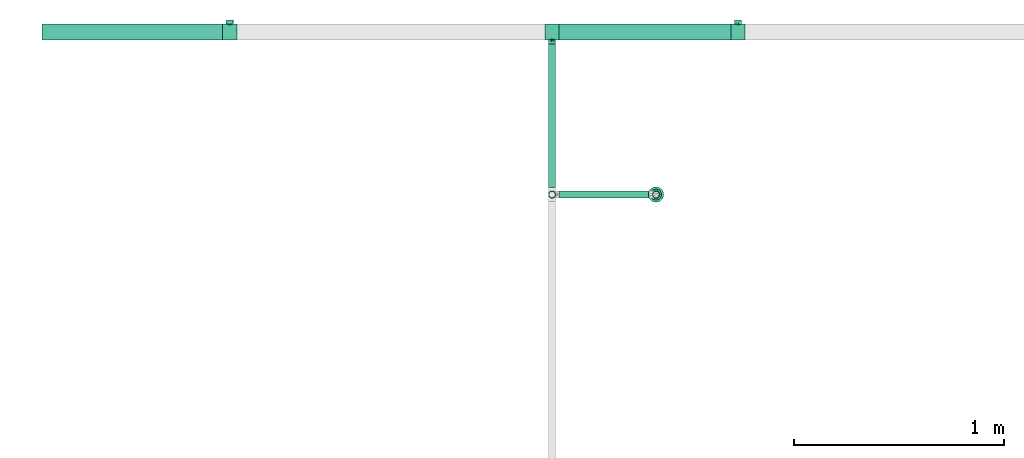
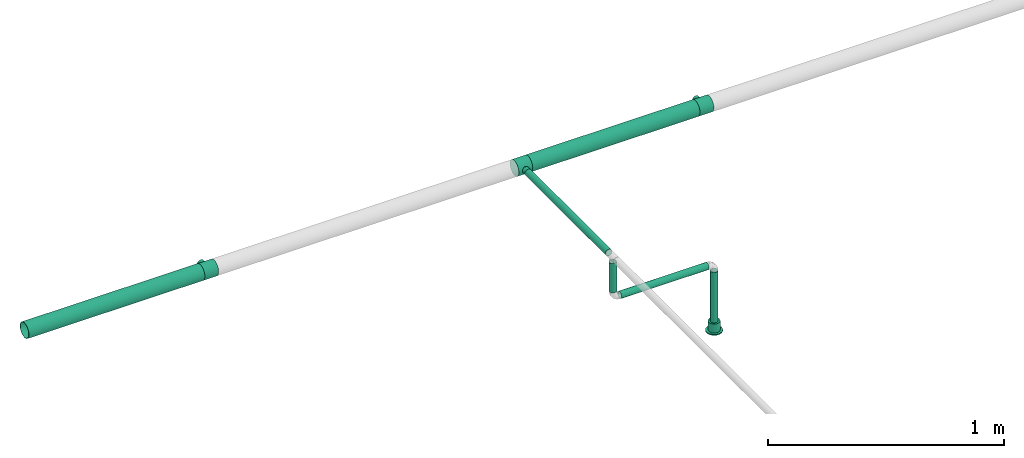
# One storey, part 31 of 95: 6 flow segments, 3 flow fittings, 1 flow terminal.
"""IFC2X3 building model written with IfcOpenShell, lengths in millimetres."""

import ifcopenshell
import ifcopenshell.guid

model = None  # the IFC model being written
_history = None  # IfcOwnerHistory: only IFC2X3 demands one
_inside = {}  # id of a spatial element -> (the spatial element, [elements in it])
_under = {}  # id of a project, library or spatial element -> (it, [spatial elements below it])
_declared = {}  # id of a project -> (the project, [libraries it declares])
_typed = {}  # id of a type object -> (the type object, [elements of that type])
_made_of = {}  # id of a material, layer set ... -> (it, [elements and type objects made of it])


def new_model(schema):
    """Start an empty IFC model of exactly this schema.

    Asked for "IFC4X3", IfcOpenShell would pick the latest addendum, in which some entities
    have other attributes; the version numbers below select the first issue.
    IFC2X3 requires an IfcOwnerHistory on every rooted entity: one is made here for all.
    """
    global model, _history
    if schema == "IFC4X3":
        model = ifcopenshell.file(schema_version=(4, 3, 0, 0))
    else:
        model = ifcopenshell.file(schema=schema)
    _inside.clear()
    _under.clear()
    _declared.clear()
    _typed.clear()
    _made_of.clear()
    _history = None
    if model.schema == "IFC2X3":
        org = make("IfcOrganization", Name="unknown")
        user = make(
            "IfcPersonAndOrganization",
            ThePerson=make("IfcPerson", FamilyName="unknown"),
            TheOrganization=org,
        )
        app = make(
            "IfcApplication",
            ApplicationDeveloper=org,
            Version="unknown",
            ApplicationFullName="unknown",
            ApplicationIdentifier="unknown",
        )
        _history = make(
            "IfcOwnerHistory",
            OwningUser=user,
            OwningApplication=app,
            ChangeAction="ADDED",
            CreationDate=0,
        )
    return model


def make(cls, **values):
    """One entity of the class cls with the attributes given. An attribute that is None is left unset."""
    return model.create_entity(
        cls, **{name: value for name, value in values.items() if value is not None}
    )


def entity(cls, *values):
    """Any entity or typed value of the class cls, its attributes in the order of the schema. None: left unset."""
    e = model.create_entity(cls)
    for i, value in enumerate(values):
        if value is not None:
            e[i] = value
    return e


def rooted(cls, **values):
    """An entity with a GlobalId (a new one), such as an element, a storey or a relation."""
    return make(cls, GlobalId=ifcopenshell.guid.new(), OwnerHistory=_history, **values)


def si_unit(unit_type, name, prefix=None):
    """IfcSIUnit, for example si_unit("LENGTHUNIT", "METRE", prefix="MILLI")."""
    return make("IfcSIUnit", UnitType=unit_type, Prefix=prefix, Name=name)


def converted_unit(unit_type, name, factor, base, dimensions=None, offset=None):
    """IfcConversionBasedUnit, such as the inch: factor (a typed value) times the base unit."""
    return make(
        "IfcConversionBasedUnit"
        if offset is None
        else "IfcConversionBasedUnitWithOffset",
        ConversionOffset=offset,
        Dimensions=None
        if dimensions is None
        else entity("IfcDimensionalExponents", *dimensions),
        UnitType=unit_type,
        Name=name,
        ConversionFactor=make(
            "IfcMeasureWithUnit", ValueComponent=factor, UnitComponent=base
        ),
    )


def derived_unit(unit_type, elements):
    """IfcDerivedUnit: a product of units, each with its exponent."""
    return make(
        "IfcDerivedUnit",
        Elements=[
            make("IfcDerivedUnitElement", Unit=unit, Exponent=power)
            for unit, power in elements
        ],
        UnitType=unit_type,
    )


def assignment(units):
    """IfcUnitAssignment: the units of a project."""
    return None if units is None else make("IfcUnitAssignment", Units=units)


def point(xyz):
    """IfcCartesianPoint."""
    return None if xyz is None else make("IfcCartesianPoint", Coordinates=xyz)


def direction(xyz):
    """IfcDirection."""
    return None if xyz is None else make("IfcDirection", DirectionRatios=xyz)


def frame(location, z_axis=None, x_axis=None):
    """IfcAxis2Placement3D, a coordinate frame: its origin and axes. An axis left out is left unset."""
    return make(
        "IfcAxis2Placement3D",
        Location=point(location),
        Axis=direction(z_axis),
        RefDirection=direction(x_axis),
    )


def frame_2d(location, x_axis=None):
    """IfcAxis2Placement2D, a coordinate frame in the plane: its origin and x axis."""
    return make(
        "IfcAxis2Placement2D", Location=point(location), RefDirection=direction(x_axis)
    )


def origin_with_axes():
    """The frame at (0, 0, 0) with the z axis (0, 0, 1) and the x axis (1, 0, 0) written out."""
    return frame((0.0, 0.0, 0.0), z_axis=(0.0, 0.0, 1.0), x_axis=(1.0, 0.0, 0.0))


def origin_2d_with_axis():
    """The frame at (0, 0) in the plane with the x axis (1, 0) written out."""
    return frame_2d((0.0, 0.0), x_axis=(1.0, 0.0))


def place(relative_to, where):
    """IfcLocalPlacement: puts the frame where relative to a parent placement (None: the world)."""
    return make(
        "IfcLocalPlacement", PlacementRelTo=relative_to, RelativePlacement=where
    )


def context(
    kind, dimensions, precision=None, world=None, true_north=None, identifier=None
):
    """IfcGeometricRepresentationContext, for example the 3D "Model" context."""
    return make(
        "IfcGeometricRepresentationContext",
        ContextIdentifier=identifier,
        ContextType=kind,
        CoordinateSpaceDimension=dimensions,
        Precision=precision,
        WorldCoordinateSystem=world,
        TrueNorth=true_north,
    )


def subcontext(parent, identifier, kind, view, scale=None):
    """IfcGeometricRepresentationSubContext, for example "Body" below "Model"."""
    return make(
        "IfcGeometricRepresentationSubContext",
        ContextIdentifier=identifier,
        ContextType=kind,
        ParentContext=parent,
        TargetScale=scale,
        TargetView=view,
    )


def project(units=None, contexts=None):
    """IfcProject with its units and contexts."""
    return rooted(
        "IfcProject",
        Name="project",
        RepresentationContexts=contexts,
        UnitsInContext=assignment(units),
    )


def spatial(cls, under=None, at=None, **own):
    """A site, building, storey or space (cls), placed at a placement, below another one or the project."""
    s = rooted(cls, ObjectPlacement=at, **own)
    if under is not None:
        _under.setdefault(under.id(), (under, []))[1].append(s)
    return s


def profile(cls, at=None, kind="AREA", **sizes):
    """A parametric profile (cls). Its sizes go by their IFC names, for example OverallWidth=200.0."""
    return make(cls, ProfileType=kind, Position=at, **sizes)


def hollow_circle(**sizes):
    """IfcCircleHollowProfileDef."""
    return profile("IfcCircleHollowProfileDef", **sizes)


def extrude(swept, where, along, depth):
    """IfcExtrudedAreaSolid: the profile swept, set in the frame where, extruded along a direction by depth."""
    return make(
        "IfcExtrudedAreaSolid",
        SweptArea=swept,
        Position=where,
        ExtrudedDirection=direction(along),
        Depth=depth,
    )


def faces_of(points, faces, orient=None, outer=None):
    """IfcFace entities. A face is a list of loops; a loop is a list of indices into points, from 0.

    orient and outer hold one flag for each loop. By default every Orientation is true, the
    first loop of a face is its IfcFaceOuterBound and the others are IfcFaceBound.
    """
    made = []
    for i, loops in enumerate(faces):
        bounds = []
        for j, loop in enumerate(loops):
            is_outer = j == 0 if outer is None else outer[i][j]
            bounds.append(
                make(
                    "IfcFaceOuterBound" if is_outer else "IfcFaceBound",
                    Bound=make("IfcPolyLoop", Polygon=[points[k] for k in loop]),
                    Orientation=True if orient is None else orient[i][j],
                )
            )
        made.append(make("IfcFace", Bounds=bounds))
    return made


def open_shell(faces, orient=None, outer=None):
    """The faces of one IfcOpenShell. surface_model builds it on its shared points."""
    return ("IfcOpenShell", faces, orient, outer)


def surface_model(cls, points, shells):
    """IfcFaceBasedSurfaceModel or IfcShellBasedSurfaceModel (cls): surfaces that need not close."""
    shared = [point(p) for p in points]
    made = [make(c, CfsFaces=faces_of(shared, fs, o, b)) for c, fs, o, b in shells]
    if cls == "IfcFaceBasedSurfaceModel":
        return make(cls, FbsmFaces=made)
    return make(cls, SbsmBoundary=made)


def shape(context_of_items, identifier, shape_type, items):
    """IfcShapeRepresentation: the items that make up one representation, for example the "Body"."""
    return make(
        "IfcShapeRepresentation",
        ContextOfItems=context_of_items,
        RepresentationIdentifier=identifier,
        RepresentationType=shape_type,
        Items=items,
    )


def source(mapping_origin, context_of_items, identifier, shape_type, items):
    """IfcRepresentationMap: a shape defined once, which mapped items show again and again."""
    return make(
        "IfcRepresentationMap",
        MappingOrigin=mapping_origin,
        MappedRepresentation=shape(context_of_items, identifier, shape_type, items),
    )


def transform(
    local_origin,
    x_axis=None,
    y_axis=None,
    z_axis=None,
    scale=None,
    scale2=None,
    scale3=None,
    uniform=True,
):
    """IfcCartesianTransformationOperator3D, or its non-uniform kind. x_axis, y_axis, z_axis: its Axis1, 2, 3."""
    if uniform:
        return make(
            "IfcCartesianTransformationOperator3D",
            Axis1=direction(x_axis),
            Axis2=direction(y_axis),
            LocalOrigin=point(local_origin),
            Scale=scale,
            Axis3=direction(z_axis),
        )
    return make(
        "IfcCartesianTransformationOperator3DnonUniform",
        Axis1=direction(x_axis),
        Axis2=direction(y_axis),
        LocalOrigin=point(local_origin),
        Scale=scale,
        Axis3=direction(z_axis),
        Scale2=scale2,
        Scale3=scale3,
    )


def mapped(mapping_source, mapping_target):
    """IfcMappedItem: shows the shape of a source again, moved by a transform."""
    return make(
        "IfcMappedItem", MappingSource=mapping_source, MappingTarget=mapping_target
    )


def made_of(thing, what):
    """Note that an element or type object is made of a material, layer set ...; save() writes the relation."""
    if what is not None:
        _made_of.setdefault(what.id(), (what, []))[1].append(thing)
    return thing


def type_object(cls, material=None, **own):
    """A type object (cls), such as IfcWallType, which elements share."""
    return made_of(rooted(cls, **own), material)


def element(
    cls,
    number,
    at=None,
    inside=None,
    cuts=None,
    type_object=None,
    material=None,
    context=None,
    identifier="Body",
    shape_type=None,
    held_by="IfcProductDefinitionShape",
    body=None,
    shapes=None,
    **own,
):
    """One element of the class cls, such as IfcWall. Its Tag is "e" and its number.

    at: its placement. inside: the storey or other place that contains it. cuts: it is an
    opening in that element (IfcRelVoidsElement). A single representation is given by context,
    identifier, shape_type and body (its items); several are given by shapes. held_by: the class
    of the entity that holds the representations. save() writes the other relations.
    """
    e = rooted(cls, Tag="e%d" % number, ObjectPlacement=at, **own)
    if body is not None:
        shapes = [shape(context, identifier, shape_type, body)]
    if shapes is not None:
        e.Representation = make(held_by, Representations=shapes)
    if inside is not None:
        _inside.setdefault(inside.id(), (inside, []))[1].append(e)
    if cuts is not None:
        rooted(
            "IfcRelVoidsElement", RelatingBuildingElement=cuts, RelatedOpeningElement=e
        )
    if type_object is not None:
        _typed.setdefault(type_object.id(), (type_object, []))[1].append(e)
    return made_of(e, material)


def aggregate(whole, parts):
    """IfcRelAggregates: a whole, such as a stair, and the parts it consists of."""
    return rooted("IfcRelAggregates", RelatingObject=whole, RelatedObjects=parts)


def save(model, path):
    """Write the relations noted so far, then the file.

    IfcRelAggregates (storeys below a building ...), IfcRelContainedInSpatialStructure (elements
    in a storey), IfcRelDefinesByType, IfcRelAssociatesMaterial and IfcRelDeclares: one each for
    every whole, place, type object, material and project.
    """
    for whole, parts in _under.values():
        aggregate(whole, parts)
    for where, things in _inside.values():
        rooted(
            "IfcRelContainedInSpatialStructure",
            RelatedElements=things,
            RelatingStructure=where,
        )
    for kind, things in _typed.values():
        rooted("IfcRelDefinesByType", RelatedObjects=things, RelatingType=kind)
    for what, things in _made_of.values():
        rooted("IfcRelAssociatesMaterial", RelatedObjects=things, RelatingMaterial=what)
    for by, libraries in _declared.values():
        rooted("IfcRelDeclares", RelatingContext=by, RelatedDefinitions=libraries)
    model.write(path)


model = new_model("IFC2X3")

# Units and contexts
model_context = context("Model", 3, precision=0.01, world=frame((0.0, 4.29681676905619e-09, 0.0)), true_north=direction((4.01073788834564e-13, 1.0)))
plan_context = context("Plan", 3, precision=0.01, world=frame((0.0, 4.29681676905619e-09, 0.0)), true_north=direction((4.01073788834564e-13, 1.0)))
body_context = subcontext(model_context, "Body", "Model", "MODEL_VIEW")
ifc_project = project(units=[converted_unit("PLANEANGLEUNIT", "DEGREE", entity("IfcPositiveLengthMeasure", 0.0174532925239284), si_unit("PLANEANGLEUNIT", "RADIAN"), dimensions=[0, 0, 0, 0, 0, 0, 0]), si_unit("AREAUNIT", "SQUARE_METRE"), si_unit("LENGTHUNIT", "METRE", prefix="MILLI"), si_unit("MASSUNIT", "GRAM", prefix="KILO"), si_unit("POWERUNIT", "WATT"), si_unit("PRESSUREUNIT", "PASCAL"), si_unit("FORCEUNIT", "NEWTON", prefix="KILO"), si_unit("ELECTRICVOLTAGEUNIT", "VOLT"), si_unit("ELECTRICCURRENTUNIT", "AMPERE"), si_unit("THERMODYNAMICTEMPERATUREUNIT", "DEGREE_CELSIUS"), si_unit("TIMEUNIT", "SECOND"), si_unit("VOLUMEUNIT", "CUBIC_METRE"), derived_unit("LINEARVELOCITYUNIT", [(si_unit("LENGTHUNIT", "METRE"), 1), (si_unit("TIMEUNIT", "SECOND"), -1)]), derived_unit("VOLUMETRICFLOWRATEUNIT", [(si_unit("VOLUMEUNIT", "CUBIC_METRE"), 1), (si_unit("TIMEUNIT", "SECOND"), -1)]), derived_unit("THERMALTRANSMITTANCEUNIT", [(si_unit("POWERUNIT", "WATT"), 1), (si_unit("THERMODYNAMICTEMPERATUREUNIT", "KELVIN"), -1), (si_unit("AREAUNIT", "SQUARE_METRE"), -1)]), derived_unit("SOUNDPRESSUREUNIT", [(si_unit("PRESSUREUNIT", "PASCAL"), 1)])], contexts=[model_context, plan_context])

# Site, building, storey
site_placement = place(None, frame((0.0, -4.29681676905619e-09, 0.0), z_axis=(0.0, 0.0, 1.0), x_axis=(1.0, 0.0, 0.0)))
site = spatial("IfcSite", under=ifc_project, at=site_placement, CompositionType="ELEMENT")
building_placement = place(site_placement, frame((0.0, 4.29681676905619e-09, 0.0), z_axis=(0.0, 0.0, 1.0), x_axis=(1.0, 0.0, 0.0)))
building = spatial("IfcBuilding", under=site, at=building_placement, Name="mc-building", CompositionType="ELEMENT")
storey_placement = place(building_placement, frame((0.0, 0.0, 210900.0), z_axis=(0.0, 0.0, 1.0), x_axis=(1.0, 0.0, 0.0)))
storey = spatial("IfcBuildingStorey", under=building, at=storey_placement, Name="Nivå F", CompositionType="ELEMENT", Elevation=210900.0)

# Flow fittings
pipe_fitting_type = type_object("IfcPipeFittingType", Name="magi_pipe_fe_tee_centric_90_NOR", PredefinedType="JUNCTION")
shared_shape_1 = source(origin_with_axes(), body_context, "Body", "SurfaceModel", [
    surface_model("IfcShellBasedSurfaceModel", [(-33.8, 9.86101, -36.80177), (-33.8, 0.0, -38.1), (-33.8, 36.80177, -9.86101), (-33.8, 19.05, -32.99557), (-33.8, 32.99557, -19.05), (-33.8, 26.94077, -26.94077), (-33.8, -38.1, 0.0), (-33.8, -19.05, -32.99557), (-33.8, -26.94077, -26.94077), (-33.8, -9.86101, -36.80177), (-33.8, -32.99557, -19.05), (-33.8, -36.80177, -9.86101), (-33.8, 38.1, 0.0), (-33.8, 32.99557, 19.05), (-33.8, 36.80177, 9.86101), (-33.8, -36.80177, 9.86101), (-33.8, 19.05, 32.99557), (-33.8, 26.94077, 26.94077), (-33.8, 9.86101, 36.80177), (-33.8, 0.0, 38.1), (-33.8, -26.94077, 26.94077), (-33.8, -32.99557, 19.05), (-33.8, -9.86101, 36.80177), (-33.8, -19.05, 32.99557), (33.8, 0.0, -38.1), (33.8, 9.86101, -36.80177), (33.8, 19.05, -32.99557), (33.8, 26.94077, -26.94077), (33.8, 32.99557, -19.05), (33.8, 36.80177, -9.86101), (33.8, -38.1, 0.0), (33.8, -9.86101, -36.80177), (33.8, -26.94077, -26.94077), (33.8, -19.05, -32.99557), (33.8, -32.99557, -19.05), (33.8, -36.80177, -9.86101), (33.8, 36.80177, 9.86101), (33.8, 32.99557, 19.05), (33.8, 19.05, 32.99557), (33.8, 0.0, 38.1), (33.8, 26.94077, 26.94077), (33.8, 9.86101, 36.80177), (33.8, -26.94077, 26.94077), (33.8, -32.99557, 19.05), (33.8, -36.80177, 9.86101), (33.8, -19.05, 32.99557), (33.8, -9.86101, 36.80177), (33.8, 38.1, 0.0), (33.8, -37.45089, 4.9305), (15.86072, -37.65053, 5.83504), (16.9, -38.1, 0.0), (12.92726, -36.51183, 10.88559), (2.96752, -34.27545, 16.63742), (33.8, -34.89867, 14.4555), (8.48894, -35.18611, 14.61328), (-8.4904, -35.18646, 14.61243), (-33.8, -34.89867, 14.4555), (-15.8612, -37.65073, 5.83372), (-33.8, -37.45089, 4.9305), (-16.9, -38.1, 0.0), (-12.9317, -36.51341, 10.88031), (-2.97221, -34.27585, 16.63658), (-33.8, -37.45089, -4.9305), (-15.8612, -37.65073, -5.83372), (15.86072, -37.65053, -5.83504), (33.8, -37.45089, -4.9305), (-12.9317, -36.51341, -10.88031), (-33.8, -34.89867, -14.4555), (-8.4904, -35.18646, -14.61243), (2.96752, -34.27545, -16.63742), (8.48894, -35.18611, -14.61328), (33.8, -34.89867, -14.4555), (12.92726, -36.51183, -10.88559), (-2.97221, -34.27585, -16.63658), (4.37404, -57.15, -16.32415), (-16.9, -57.15, 0.0), (0.0, -57.15, -16.9), (14.63583, -57.15, -8.45), (8.45, -57.15, -14.63583), (16.32415, -57.15, -4.37404), (11.9501, -57.15, -11.9501), (-11.9501, -57.15, -11.9501), (-8.45, -57.15, -14.63583), (-4.37404, -57.15, -16.32415), (-14.63583, -57.15, -8.45), (-16.32415, -57.15, -4.37404), (16.9, -57.15, 0.0), (8.45, -57.15, 14.63583), (16.32415, -57.15, 4.37404), (14.63583, -57.15, 8.45), (-8.45, -57.15, 14.63583), (11.9501, -57.15, 11.9501), (4.37404, -57.15, 16.32415), (-16.32415, -57.15, 4.37404), (-11.9501, -57.15, 11.9501), (-14.63583, -57.15, 8.45), (0.0, -57.15, 16.9), (-4.37404, -57.15, 16.32415), (-16.3806, -37.87537, 2.91686), (-5.7313, -34.73116, 15.62451), (-0.00235, -34.27565, 16.637), (5.72823, -34.73078, 15.62535), (16.38036, -37.87526, 2.91752), (16.38036, -37.87526, -2.91752), (5.72823, -34.73078, -15.62535), (-0.00235, -34.27565, -16.637), (-5.7313, -34.73116, -15.62451), (-16.3806, -37.87537, -2.91686)], [open_shell([[[0, 1, 2]], [[3, 0, 2]], [[2, 4, 5]], [[3, 2, 5]], [[6, 2, 1]], [[7, 8, 9]], [[8, 1, 9]], [[10, 11, 8]], [[6, 8, 11]], [[8, 6, 1]], [[6, 12, 2]], [[13, 14, 12]], [[15, 13, 6]], [[16, 13, 15]], [[17, 13, 16]], [[18, 16, 19]], [[20, 19, 21]], [[16, 15, 21]], [[22, 19, 23]], [[20, 23, 19]], [[21, 19, 16]], [[12, 6, 13]], [[24, 25, 26]], [[24, 26, 27]], [[27, 28, 29]], [[24, 27, 30]], [[30, 27, 29]], [[31, 32, 33]], [[31, 24, 32]], [[34, 30, 35]], [[30, 34, 32]], [[24, 30, 32]], [[29, 36, 30]], [[36, 37, 30]], [[30, 37, 38]], [[38, 39, 30]], [[38, 37, 40]], [[39, 38, 41]], [[30, 42, 43]], [[44, 30, 43]], [[45, 39, 46]], [[45, 42, 30]], [[30, 39, 45]], [[36, 29, 47]], [[48, 44, 49]], [[50, 30, 48]], [[44, 51, 49]], [[43, 42, 52]], [[50, 48, 49]], [[44, 53, 51]], [[52, 54, 43]], [[42, 20, 52]], [[54, 53, 43]], [[55, 21, 56]], [[57, 58, 59]], [[6, 59, 58]], [[57, 60, 15]], [[55, 61, 21]], [[51, 53, 54]], [[15, 60, 56]], [[21, 61, 20]], [[56, 60, 55]], [[61, 52, 20]], [[57, 15, 58]], [[42, 23, 20]], [[19, 46, 39]], [[22, 45, 46]], [[18, 39, 41]], [[37, 36, 14]], [[17, 38, 40]], [[13, 40, 37]], [[41, 38, 16]], [[12, 36, 47]], [[23, 45, 22]], [[22, 46, 19]], [[18, 19, 39]], [[41, 16, 18]], [[16, 38, 17]], [[13, 17, 40]], [[14, 13, 37]], [[36, 12, 14]], [[45, 23, 42]], [[12, 47, 29]], [[29, 28, 2]], [[59, 62, 63]], [[27, 4, 28]], [[9, 24, 31]], [[0, 26, 25]], [[64, 35, 65]], [[24, 1, 25]], [[31, 33, 7]], [[27, 26, 5]], [[66, 67, 68]], [[4, 2, 28]], [[12, 29, 2]], [[27, 5, 4]], [[3, 26, 0]], [[26, 3, 5]], [[0, 25, 1]], [[9, 1, 24]], [[31, 7, 9]], [[33, 8, 7]], [[32, 34, 69]], [[70, 34, 71]], [[70, 69, 34]], [[35, 72, 71]], [[32, 69, 8]], [[30, 50, 65]], [[64, 72, 35]], [[64, 65, 50]], [[72, 70, 71]], [[73, 68, 10]], [[10, 8, 73]], [[68, 67, 10]], [[73, 8, 69]], [[66, 63, 11]], [[63, 62, 11]], [[62, 59, 6]], [[11, 67, 66]], [[32, 8, 33]], [[74, 75, 76]], [[77, 74, 78]], [[77, 79, 74]], [[77, 78, 80]], [[75, 74, 79]], [[76, 81, 82]], [[82, 83, 76]], [[84, 75, 85]], [[81, 76, 84]], [[75, 84, 76]], [[79, 86, 75]], [[87, 86, 88]], [[87, 88, 89]], [[90, 75, 87]], [[87, 89, 91]], [[90, 87, 92]], [[93, 94, 95]], [[94, 93, 90]], [[90, 96, 97]], [[93, 75, 90]], [[92, 96, 90]], [[87, 75, 86]], [[93, 98, 75]], [[60, 95, 94]], [[93, 95, 57]], [[94, 90, 55]], [[98, 59, 75]], [[57, 95, 60]], [[97, 61, 99]], [[55, 60, 94]], [[96, 52, 100]], [[87, 101, 92]], [[99, 90, 97]], [[99, 55, 90]], [[93, 57, 98]], [[92, 52, 96]], [[49, 89, 88]], [[102, 86, 50]], [[102, 49, 88]], [[91, 89, 51]], [[96, 61, 97]], [[101, 52, 92]], [[87, 54, 101]], [[87, 91, 54]], [[54, 91, 51]], [[51, 89, 49]], [[86, 102, 88]], [[100, 61, 96]], [[79, 103, 86]], [[72, 77, 80]], [[79, 77, 64]], [[80, 78, 70]], [[103, 50, 86]], [[64, 77, 72]], [[74, 69, 104]], [[70, 72, 80]], [[76, 73, 105]], [[82, 106, 83]], [[107, 75, 59]], [[104, 78, 74]], [[104, 70, 78]], [[68, 82, 81]], [[79, 64, 103]], [[63, 84, 85]], [[107, 63, 85]], [[84, 66, 81]], [[76, 69, 74]], [[83, 106, 73]], [[73, 76, 83]], [[68, 106, 82]], [[68, 81, 66]], [[66, 84, 63]], [[75, 107, 85]], [[105, 69, 76]]])]),
])
for number, where, z_axis, x_axis, name in (
    (1, (521269.2257, 461774.3, 4310.0), (0.0, 0.0, 1.0), (-1.0, 0.0, 0.0), "magi_pipe_fe_tee_centric_90_NOR"),
    (2, (522802.76487, 461774.3, 4310.0), (0.0, 0.0, -1.0), (-1.0, 0.0, 0.0), "magi_pipe_fe_tee_centric_90_NOR"),
    (3, (523687.325, 461774.3, 4310.0), (0.0, 0.0, 1.0), (-1.0, 0.0, 0.0), "magi_pipe_fe_tee_centric_90_NOR"),
):
    element("IfcFlowFitting", number, at=place(storey_placement, frame(where, z_axis=z_axis, x_axis=x_axis)), inside=storey, type_object=pipe_fitting_type, Name=name, context=body_context, shape_type="MappedRepresentation", body=[
        mapped(shared_shape_1, transform((0.0, 0.0, 0.0), scale=1.0)),
    ])

# Flow segments
pipe_segment_type = type_object("IfcPipeSegmentType", Name="Stålrør normaltykke", PredefinedType="RIGIDSEGMENT")
shared_shape_2 = source(origin_with_axes(), body_context, "Body", "SweptSolid", [
    extrude(hollow_circle(Radius=38.0, WallThickness=2.0, at=origin_2d_with_axis()), frame((0.0, 0.0, 0.0), z_axis=(1.0, 0.0, 0.0), x_axis=(0.0, 1.0, 0.0)), (0.0, 0.0, 1.0), 859.1),
])
flow_segment_1_placement = place(storey_placement, frame((520376.30289, 461774.3, 4310.0), z_axis=(0.0, 0.0, 1.0), x_axis=(1.0, 0.0, 0.0)))
element("IfcFlowSegment", 4, at=flow_segment_1_placement, inside=storey, type_object=pipe_segment_type, Name="Stålrør normaltykke", context=body_context, shape_type="MappedRepresentation", body=[
    mapped(shared_shape_2, transform((0.0, 0.0, 0.0), scale=1.0)),
])
shared_shape_3 = source(origin_with_axes(), body_context, "Body", "SweptSolid", [
    extrude(hollow_circle(Radius=16.9, WallThickness=2.0, at=origin_2d_with_axis()), frame((0.0, 0.0, 0.0), z_axis=(1.0, 0.0, 0.0), x_axis=(0.0, 1.0, 0.0)), (0.0, 0.0, 1.0), 427.2),
])
flow_segment_2_placement = place(storey_placement, frame((523263.77166, 461000.75899, 4100.0), z_axis=(0.0, 0.0, 1.0), x_axis=(-1.0, 0.0, 0.0)))
element("IfcFlowSegment", 5, at=flow_segment_2_placement, inside=storey, type_object=pipe_segment_type, Name="Stålrør normaltykke", context=body_context, shape_type="MappedRepresentation", body=[
    mapped(shared_shape_3, transform((0.0, 0.0, 0.0), scale=1.0)),
])
shared_shape_4 = source(origin_with_axes(), body_context, "Body", "SweptSolid", [
    extrude(hollow_circle(Radius=16.9, WallThickness=2.0, at=origin_2d_with_axis()), frame((0.0, 0.0, 0.0), z_axis=(1.0, 0.0, 0.0), x_axis=(0.0, 1.0, 0.0)), (0.0, 0.0, 1.0), 296.9),
])
flow_segment_3_placement = place(storey_placement, frame((523297.57166, 461000.75899, 4066.20000000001), z_axis=(0.0, -1.0, 0.0), x_axis=(0.0, 0.0, -1.0)))
element("IfcFlowSegment", 6, at=flow_segment_3_placement, inside=storey, type_object=pipe_segment_type, Name="Stålrør normaltykke", context=body_context, shape_type="MappedRepresentation", body=[
    mapped(shared_shape_4, transform((0.0, 0.0, 0.0), scale=1.0)),
])
shared_shape_5 = source(origin_with_axes(), body_context, "Body", "SweptSolid", [
    extrude(hollow_circle(Radius=38.0, WallThickness=2.0, at=origin_2d_with_axis()), frame((0.0, 0.0, 0.0), z_axis=(1.0, 0.0, 0.0), x_axis=(0.0, 1.0, 0.0)), (0.0, 0.0, 1.0), 817.0),
])
flow_segment_4_placement = place(storey_placement, frame((522836.56487, 461774.3, 4310.0), z_axis=(0.0, 0.0, 1.0), x_axis=(1.0, 0.0, 0.0)))
element("IfcFlowSegment", 7, at=flow_segment_4_placement, inside=storey, type_object=pipe_segment_type, Name="Stålrør normaltykke", context=body_context, shape_type="MappedRepresentation", body=[
    mapped(shared_shape_5, transform((0.0, 0.0, 0.0), scale=1.0)),
])
shared_shape_6 = source(origin_with_axes(), body_context, "Body", "SweptSolid", [
    extrude(hollow_circle(Radius=16.9, WallThickness=2.0, at=origin_2d_with_axis()), frame((0.0, 0.0, 0.0), z_axis=(1.0, 0.0, 0.0), x_axis=(0.0, 1.0, 0.0)), (0.0, 0.0, 1.0), 150.8),
])
flow_segment_5_placement = place(storey_placement, frame((522802.76487, 461000.75899, 4284.64999999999), z_axis=(1.0, 0.0, 0.0), x_axis=(0.0, 0.0, -1.0)))
element("IfcFlowSegment", 8, at=flow_segment_5_placement, inside=storey, type_object=pipe_segment_type, Name="Stålrør normaltykke", context=body_context, shape_type="MappedRepresentation", body=[
    mapped(shared_shape_6, transform((0.0, 0.0, 0.0), scale=1.0)),
])
shared_shape_7 = source(origin_with_axes(), body_context, "Body", "SweptSolid", [
    extrude(hollow_circle(Radius=16.9, WallThickness=2.0, at=origin_2d_with_axis()), frame((0.0, 0.0, 0.0), z_axis=(1.0, 0.0, 0.0), x_axis=(0.0, 1.0, 0.0)), (0.0, 0.0, 1.0), 682.6),
])
flow_segment_6_placement = place(storey_placement, frame((522802.76487, 461034.55899, 4310.0), z_axis=(0.0, 0.0, 1.0), x_axis=(0.0, 1.0, 0.0)))
element("IfcFlowSegment", 9, at=flow_segment_6_placement, inside=storey, type_object=pipe_segment_type, Name="Stålrør normaltykke", context=body_context, shape_type="MappedRepresentation", body=[
    mapped(shared_shape_7, transform((0.0, 0.0, 0.0), scale=1.0)),
])

# Flow terminal
fire_suppression_terminal_type = type_object("IfcFireSuppressionTerminalType", Name="68DGR-STD-SKJULT I HIMLING", PredefinedType="NOTDEFINED")
shared_shape_8 = source(origin_with_axes(), body_context, "Body", "SurfaceModel", [
    surface_model("IfcShellBasedSurfaceModel", [(-26.0, 0.0, -46.0), (-25.11407, -6.72929, -46.0), (-25.11407, -6.72929, 0.0), (6.72929, -25.11407, 0.0), (6.72929, -25.11407, -46.0), (13.0, -22.51666, -46.0), (22.51666, -13.0, -46.0), (22.51666, -13.0, 0.0), (18.38478, -18.38478, 0.0), (25.11407, -6.72929, 0.0), (25.11407, -6.72929, -46.0), (26.0, 0.0, -46.0), (26.0, 0.0, 0.0), (25.11407, 6.72929, -46.0), (22.51666, 13.0, 0.0), (25.11407, 6.72929, 0.0), (13.0, 22.51666, -46.0), (6.72929, 25.11407, -46.0), (6.72929, 25.11407, 0.0), (18.38478, 18.38478, 0.0), (22.51666, 13.0, -46.0), (-25.11407, 6.72929, 0.0), (-25.11407, 6.72929, -46.0), (-26.16295, -26.16295, 5.0), (35.73926, -9.57631, 5.0), (37.0, 0.0, 5.0), (13.0, 22.51666, 0.0), (-26.0, 0.0, 0.0), (-13.0, 22.51666, 0.0), (-6.72929, 25.11407, 0.0), (0.0, 26.0, 0.0), (-22.51666, 13.0, 0.0), (-18.38478, 18.38478, 0.0), (13.0, -22.51666, 0.0), (0.0, -26.0, 0.0), (-22.51666, -13.0, 0.0), (-18.38478, -18.38478, 0.0), (-13.0, -22.51666, 0.0), (-6.72929, -25.11407, 0.0), (0.0, -26.0, -46.0), (18.38478, -18.38478, -46.0), (-18.38478, -18.38478, -46.0), (-13.0, -22.51666, -46.0), (-6.72929, -25.11407, -46.0), (-22.51666, -13.0, -46.0), (18.38478, 18.38478, -46.0), (-22.51666, 13.0, -46.0), (-18.38478, 18.38478, -46.0), (-13.0, 22.51666, -46.0), (-6.72929, 25.11407, -46.0), (0.0, 26.0, -46.0), (18.5, 32.04294, 5.0), (9.57631, 35.73926, 5.0), (35.73926, 9.57631, 5.0), (26.16295, 26.16295, 5.0), (32.04294, 18.5, 5.0), (-35.73926, -9.57631, 5.0), (-18.5, 32.04294, 5.0), (-9.57631, 35.73926, 5.0), (0.0, 37.0, 5.0), (-32.04294, 18.5, 5.0), (-35.73926, 9.57631, 5.0), (-26.16295, 26.16295, 5.0), (-37.0, 0.0, 5.0), (32.04294, -18.5, 5.0), (0.0, -37.0, 5.0), (26.16295, -26.16295, 5.0), (18.5, -32.04294, 5.0), (9.57631, -35.73926, 5.0), (-9.57631, -35.73926, 5.0), (-32.04294, -18.5, 5.0), (-18.5, -32.04294, 5.0), (18.5, -32.04294, 0.0), (9.57631, -35.73926, 0.0), (0.0, -37.0, 0.0), (32.04294, -18.5, 0.0), (-26.16295, -26.16295, 0.0), (26.16295, -26.16295, 0.0), (-35.73926, 9.57631, 0.0), (-18.5, -32.04294, 0.0), (-9.57631, -35.73926, 0.0), (-32.04294, -18.5, 0.0), (-35.73926, -9.57631, 0.0), (-37.0, 0.0, 0.0), (35.73926, -9.57631, 0.0), (35.73926, 9.57631, 0.0), (32.04294, 18.5, 0.0), (18.5, 32.04294, 0.0), (9.57631, 35.73926, 0.0), (26.16295, 26.16295, 0.0), (-32.04294, 18.5, 0.0), (-26.16295, 26.16295, 0.0), (-9.57631, 35.73926, 0.0), (0.0, 37.0, 0.0), (-18.5, 32.04294, 0.0), (37.0, 0.0, 0.0)], [open_shell([[[0, 1, 2]], [[3, 4, 5]], [[6, 7, 8]], [[9, 7, 10]], [[11, 12, 9]], [[13, 14, 15]], [[15, 12, 11]], [[16, 17, 18]], [[19, 14, 20]], [[21, 22, 0]], [[23, 24, 25]], [[19, 26, 18]], [[19, 18, 21]], [[27, 15, 19]], [[14, 19, 15]], [[19, 21, 27]], [[28, 21, 29]], [[18, 30, 29]], [[31, 21, 32]], [[28, 32, 21]], [[29, 21, 18]], [[12, 15, 27]], [[8, 7, 9]], [[33, 8, 9]], [[34, 3, 33]], [[9, 34, 33]], [[27, 34, 9]], [[2, 35, 27]], [[36, 27, 35]], [[37, 38, 36]], [[34, 27, 36]], [[36, 38, 34]], [[12, 27, 9]], [[5, 4, 39]], [[5, 39, 22]], [[10, 6, 40]], [[5, 10, 40]], [[39, 41, 22]], [[42, 41, 43]], [[41, 39, 43]], [[1, 0, 44]], [[44, 0, 22]], [[22, 41, 44]], [[10, 5, 22]], [[45, 13, 10]], [[20, 13, 45]], [[17, 16, 45]], [[10, 22, 45]], [[45, 22, 17]], [[46, 47, 22]], [[48, 22, 47]], [[48, 49, 22]], [[49, 17, 22]], [[49, 50, 17]], [[11, 10, 13]], [[46, 22, 21]], [[46, 31, 47]], [[49, 48, 28]], [[32, 48, 47]], [[50, 49, 29]], [[21, 0, 27]], [[21, 31, 46]], [[31, 32, 47]], [[48, 32, 28]], [[28, 29, 49]], [[29, 30, 50]], [[16, 26, 45]], [[13, 20, 14]], [[19, 20, 45]], [[11, 13, 15]], [[30, 18, 17]], [[18, 26, 16]], [[26, 19, 45]], [[50, 30, 17]], [[11, 9, 10]], [[10, 7, 6]], [[3, 39, 4]], [[6, 8, 40]], [[3, 5, 33]], [[8, 33, 5]], [[5, 40, 8]], [[3, 34, 39]], [[42, 43, 38]], [[42, 37, 41]], [[1, 44, 35]], [[36, 44, 41]], [[34, 38, 43]], [[38, 37, 42]], [[37, 36, 41]], [[36, 35, 44]], [[1, 35, 2]], [[2, 27, 0]], [[39, 34, 43]], [[51, 52, 53]], [[54, 51, 55]], [[56, 52, 57]], [[55, 51, 53]], [[52, 56, 53]], [[58, 57, 59]], [[57, 52, 59]], [[60, 61, 62]], [[57, 62, 63]], [[62, 61, 63]], [[53, 23, 25]], [[64, 24, 65]], [[66, 64, 67]], [[65, 68, 67]], [[64, 65, 67]], [[69, 65, 24]], [[70, 23, 56]], [[56, 57, 63]], [[71, 69, 23]], [[23, 53, 56]], [[24, 23, 69]], [[72, 73, 74]], [[75, 72, 74]], [[76, 75, 74]], [[77, 72, 75]], [[75, 76, 78]], [[79, 76, 80]], [[76, 74, 80]], [[81, 82, 76]], [[82, 78, 76]], [[83, 78, 82]], [[75, 78, 84]], [[85, 84, 78]], [[86, 85, 87]], [[85, 88, 87]], [[89, 86, 87]], [[88, 85, 78]], [[90, 91, 78]], [[91, 88, 78]], [[92, 93, 94]], [[88, 91, 94]], [[88, 94, 93]], [[95, 84, 85]], [[83, 61, 78]], [[78, 60, 90]], [[94, 91, 57]], [[62, 91, 90]], [[92, 94, 58]], [[61, 60, 78]], [[83, 63, 61]], [[94, 57, 58]], [[57, 91, 62]], [[90, 60, 62]], [[92, 58, 59]], [[59, 93, 92]], [[93, 52, 88]], [[88, 51, 87]], [[86, 89, 55]], [[54, 89, 87]], [[85, 86, 53]], [[51, 54, 87]], [[88, 52, 51]], [[85, 53, 25]], [[53, 86, 55]], [[89, 54, 55]], [[85, 25, 95]], [[59, 52, 93]], [[95, 24, 84]], [[84, 64, 75]], [[72, 77, 67]], [[66, 77, 75]], [[73, 72, 68]], [[24, 64, 84]], [[95, 25, 24]], [[72, 67, 68]], [[67, 77, 66]], [[75, 64, 66]], [[73, 68, 65]], [[65, 74, 73]], [[74, 69, 80]], [[80, 71, 79]], [[81, 76, 70]], [[23, 76, 79]], [[82, 81, 56]], [[71, 23, 79]], [[80, 69, 71]], [[82, 56, 63]], [[56, 81, 70]], [[76, 23, 70]], [[82, 63, 83]], [[65, 69, 74]]])]),
])
flow_terminal_placement = place(storey_placement, frame((523297.57166, 461000.75899, 3759.89999999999), z_axis=(0.0, 0.0, -1.0), x_axis=(1.0, 0.0, 0.0)))
element("IfcFlowTerminal", 10, at=flow_terminal_placement, inside=storey, type_object=fire_suppression_terminal_type, Name="68DGR-STD-SKJULT I HIMLING", context=body_context, shape_type="MappedRepresentation", body=[
    mapped(shared_shape_8, transform((0.0, 0.0, 0.0), scale=1.0)),
])

save(model, "model.ifc")
